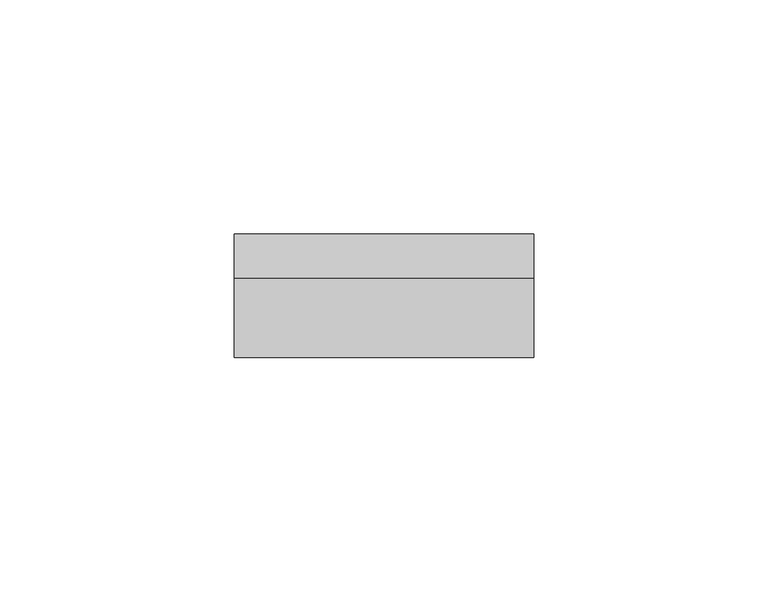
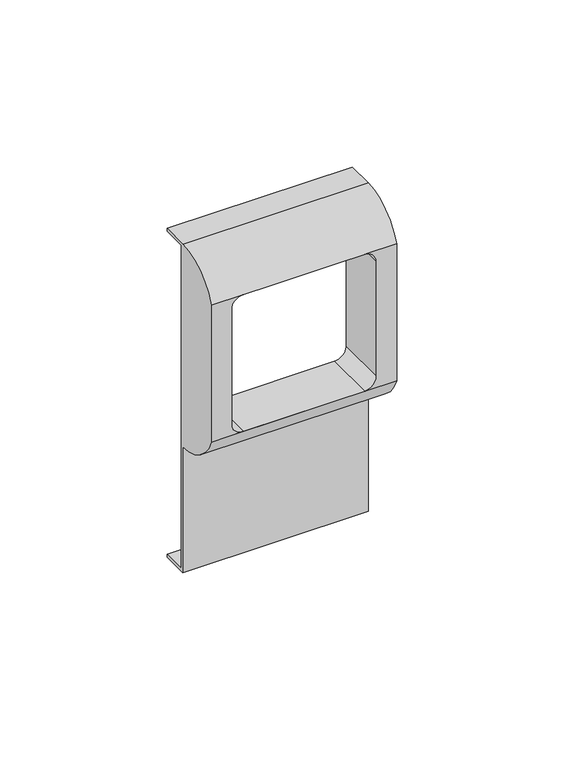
"""IFC4 building model written with IfcOpenShell, lengths in millimetres: proxy geometry."""

from ifc_helpers import new_model, si_unit, frame, origin, place, context, project, spatial, polyline, circle_curve, source, transform, mapped, element, save
from ifc_brep_helpers import plane_surface, cylinder_surface, revolved_surface, advanced_brep


def electrical_fixtures_0df07c0a(model_context):
    return source(origin(), model_context, "Body", "AdvancedBrep", [
        advanced_brep(
        [(32.0, 8.4, 59.0), (32.0, 8.4, 60.0), (32.0, -1.0, 60.0), (32.0, -18.0, 48.0), (32.0, -18.0, -2.0), (32.0, -1.0, -14.0), (32.0, -1.0, -60.0), (32.0, 8.4, -60.0), (32.0, 8.4, -59.0), (32.0, 0.0, -59.0), (32.0, 0.0, 59.0), (-32.0, 8.4, 59.0), (-32.0, 0.0, 59.0), (-32.0, 0.0, -59.0), (-32.0, 8.4, -59.0), (-32.0, 8.4, -60.0), (-32.0, -1.0, -60.0), (-32.0, -1.0, -14.0), (-32.0, -18.0, -2.0), (-32.0, -18.0, 48.0), (-32.0, -1.0, 60.0), (-32.0, 8.4, 60.0), (20.9686648, -18.0, 48.0), (25.0, -18.0, 43.9686648), (25.0, -18.0, 2.0313352), (20.9686648, -18.0, -2.0), (-20.9686648, -18.0, -2.0), (-25.0, -18.0, 2.0313352), (-25.0, -18.0, 43.9686648), (-20.9686648, -18.0, 48.0), (20.9686648, 0.0, 48.0), (-20.9686648, 0.0, 48.0), (-25.0, 0.0, 43.9686648), (-25.0, 0.0, 2.0313352), (-20.9686648, 0.0, -2.0), (20.9686648, 0.0, -2.0), (25.0, 0.0, 2.0313352), (25.0, 0.0, 43.9686648)],
        [
            (0, 1),
            (1, 2),
            (2, 3, circle_curve(frame((32.0, -1.0, 41.9583333), z_axis=(1.0, 0.0, 0.0), x_axis=(0.0, 1.0, 0.0)), 18.0416667)),
            (3, 4),
            (4, 5, circle_curve(frame((32.0, -1.0, 4.0416667), z_axis=(1.0, 0.0, 0.0), x_axis=(0.0, 1.0, 0.0)), 18.0416667)),
            (5, 6),
            (6, 7),
            (7, 8),
            (8, 9),
            (9, 10),
            (10, 0),
            (11, 12),
            (12, 13),
            (13, 14),
            (14, 15),
            (15, 16),
            (16, 17),
            (17, 18, circle_curve(frame((-32.0, -1.0, 4.0416667), z_axis=(-1.0, 0.0, 0.0), x_axis=(0.0, 1.0, 0.0)), 18.0416667)),
            (18, 19),
            (19, 20, circle_curve(frame((-32.0, -1.0, 41.9583333), z_axis=(-1.0, 0.0, 0.0), x_axis=(0.0, 1.0, 0.0)), 18.0416667)),
            (20, 21),
            (21, 11),
            (0, 11),
            (21, 1),
            (20, 2),
            (3, 22),
            (22, 23, circle_curve(frame((20.9686648, -18.0, 43.9686648), z_axis=(0.0, 1.0, 0.0), x_axis=(1.0, 0.0, 0.0)), 4.0313352)),
            (23, 24),
            (24, 25, circle_curve(frame((20.9686648, -18.0, 2.0313352), z_axis=(0.0, 1.0, 0.0), x_axis=(1.0, 0.0, 0.0)), 4.0313352)),
            (25, 4),
            (18, 26),
            (26, 27, circle_curve(frame((-20.9686648, -18.0, 2.0313352), z_axis=(0.0, 1.0, 0.0), x_axis=(1.0, 0.0, 0.0)), 4.0313352)),
            (27, 28),
            (28, 29, circle_curve(frame((-20.9686648, -18.0, 43.9686648), z_axis=(0.0, 1.0, 0.0), x_axis=(1.0, 0.0, 0.0)), 4.0313352)),
            (29, 19),
            (5, 17),
            (16, 6),
            (15, 7),
            (14, 8),
            (13, 9),
            (12, 10),
            (30, 31),
            (31, 32, circle_curve(frame((-20.9686648, 0.0, 43.9686648), z_axis=(0.0, -1.0, 0.0), x_axis=(1.0, 0.0, 0.0)), 4.0313352)),
            (32, 33),
            (33, 34, circle_curve(frame((-20.9686648, 0.0, 2.0313352), z_axis=(0.0, -1.0, 0.0), x_axis=(1.0, 0.0, 0.0)), 4.0313352)),
            (34, 35),
            (35, 36, circle_curve(frame((20.9686648, 0.0, 2.0313352), z_axis=(0.0, -1.0, 0.0), x_axis=(1.0, 0.0, 0.0)), 4.0313352)),
            (36, 37),
            (37, 30, circle_curve(frame((20.9686648, 0.0, 43.9686648), z_axis=(0.0, -1.0, 0.0), x_axis=(1.0, 0.0, 0.0)), 4.0313352)),
            (29, 22),
            (25, 26),
            (29, 31),
            (30, 22),
            (28, 32),
            (27, 33),
            (26, 34),
            (25, 35),
            (24, 36),
            (23, 37),
        ],
        [
            plane_surface(frame((32.0, 8.4, 60.0), z_axis=(1.0, 0.0, 0.0), x_axis=(0.0, 0.0, 1.0))),
            plane_surface(frame((-32.0, 8.4, 60.0), z_axis=(-1.0, 0.0, 0.0), x_axis=(0.0, 0.0, -1.0))),
            plane_surface(frame((32.0, 8.4, 59.0), z_axis=(0.0, 1.0, 0.0), x_axis=(-1.0, 0.0, 0.0))),
            plane_surface(frame((32.0, 8.4, 60.0), z_axis=(0.0, 0.0, 1.0), x_axis=(-1.0, 0.0, 0.0))),
            plane_surface(frame((32.0, -18.0, 48.0), z_axis=(0.0, -1.0, 0.0), x_axis=(-1.0, 0.0, 0.0))),
            plane_surface(frame((32.0, -1.0, -14.0), z_axis=(0.0, -1.0, 0.0), x_axis=(-1.0, 0.0, 0.0))),
            plane_surface(frame((32.0, -1.0, -60.0), z_axis=(0.0, 0.0, -1.0), x_axis=(-1.0, 0.0, 0.0))),
            plane_surface(frame((32.0, 8.4, -60.0), z_axis=(0.0, 1.0, 0.0), x_axis=(-1.0, 0.0, 0.0))),
            plane_surface(frame((32.0, 8.4, -59.0), z_axis=(0.0, 0.0, 1.0), x_axis=(-1.0, 0.0, 0.0))),
            plane_surface(frame((32.0, 0.0, -59.0), z_axis=(0.0, 1.0, 0.0), x_axis=(-1.0, 0.0, 0.0))),
            plane_surface(frame((32.0, 0.0, 59.0), z_axis=(0.0, 0.0, -1.0), x_axis=(-1.0, 0.0, 0.0))),
            cylinder_surface(frame((-32.0, -1.0, 41.9583333), z_axis=(1.0, 0.0, 0.0), x_axis=(0.0, 1.0, 0.0)), 18.0416667),
            cylinder_surface(frame((-32.0, -1.0, 4.0416667), z_axis=(1.0, 0.0, 0.0), x_axis=(0.0, 1.0, 0.0)), 18.0416667),
            plane_surface(frame((20.9686648, -18.0, 48.0), z_axis=(0.0, 0.0, -1.0), x_axis=(0.0, 1.0, 0.0))),
            revolved_surface(polyline([(-16.937329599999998, -18.0, 43.9686648), (-16.937329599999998, 0.0, 43.9686648)]), (-20.9686648, 0.0, 43.9686648), (0.0, -1.0, 0.0)),
            plane_surface(frame((-25.0, -18.0, 43.9686648), z_axis=(1.0, 0.0, 0.0), x_axis=(0.0, 1.0, 0.0))),
            revolved_surface(polyline([(-16.937329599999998, -18.0, 2.0313352), (-16.937329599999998, 0.0, 2.0313352)]), (-20.9686648, 0.0, 2.0313352), (0.0, -1.0, 0.0)),
            plane_surface(frame((-20.9686648, -18.0, -2.0), z_axis=(0.0, 0.0, 1.0), x_axis=(0.0, 1.0, 0.0))),
            revolved_surface(polyline([(25.0, -18.0, 2.0313352), (25.0, 0.0, 2.0313352)]), (20.9686648, 0.0, 2.0313352), (0.0, -1.0, 0.0)),
            plane_surface(frame((25.0, -18.0, 2.0313352), z_axis=(-1.0, 0.0, 0.0), x_axis=(0.0, 1.0, 0.0))),
            revolved_surface(polyline([(25.0, -18.0, 43.9686648), (25.0, 0.0, 43.9686648)]), (20.9686648, 0.0, 43.9686648), (0.0, -1.0, 0.0)),
        ],
        [
            (0, [[1, 2, 3, 4, 5, 6, 7, 8, 9, 10, 11]]),
            (1, [[12, 13, 14, 15, 16, 17, 18, 19, 20, 21, 22]]),
            (2, [[-1, 23, -22, 24]]),
            (3, [[-2, -24, -21, 25]]),
            (4, [[-4, 26, 27, 28, 29, 30]]),
            (4, [[-19, 31, 32, 33, 34, 35]]),
            (5, [[-6, 36, -17, 37]]),
            (6, [[-7, -37, -16, 38]]),
            (7, [[-8, -38, -15, 39]]),
            (8, [[-9, -39, -14, 40]]),
            (9, [[-10, -40, -13, 41], [42, 43, 44, 45, 46, 47, 48, 49]]),
            (10, [[-11, -41, -12, -23]]),
            (11, [[-3, -25, -20, -35, 50, -26]]),
            (12, [[-5, -30, 51, -31, -18, -36]]),
            (13, [[52, -42, 53, -50]]),
            (14, [[-52, -34, 54, -43]]),
            (15, [[-54, -33, 55, -44]]),
            (16, [[-55, -32, 56, -45]]),
            (17, [[-56, -51, 57, -46]]),
            (18, [[-57, -29, 58, -47]]),
            (19, [[-58, -28, 59, -48]]),
            (20, [[-53, -49, -59, -27]]),
        ],
    ),
    ])


if __name__ == "__main__":
    model = new_model("IFC4")
    model_context = context("Model", 3, world=origin())
    ifc_project = project(units=[si_unit("LENGTHUNIT", "METRE", prefix="MILLI")], contexts=[model_context])
    site = spatial("IfcSite", under=ifc_project)
    building = spatial("IfcBuilding", under=site)
    placement = place(None, origin())
    electrical_fixtures_shape = electrical_fixtures_0df07c0a(model_context)
    element("IfcBuildingElementProxy", 1, Name="КНС_РамкаСуппорт_ILC_DKC : Серия \"Viva\"", ObjectType="КНС_РамкаСуппорт_ILC_DKC : Серия \"Viva\"", at=placement, inside=building, context=model_context, shape_type="MappedRepresentation", body=[
        mapped(electrical_fixtures_shape, transform((0.0, 0.0, 0.0), x_axis=(1.0, 0.0, 0.0), y_axis=(0.0, 1.0, 0.0), z_axis=(0.0, 0.0, 1.0))),
    ])
    save(model, "model.ifc")
